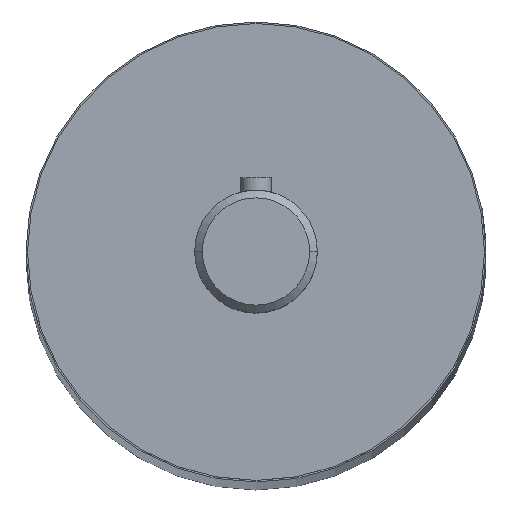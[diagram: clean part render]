
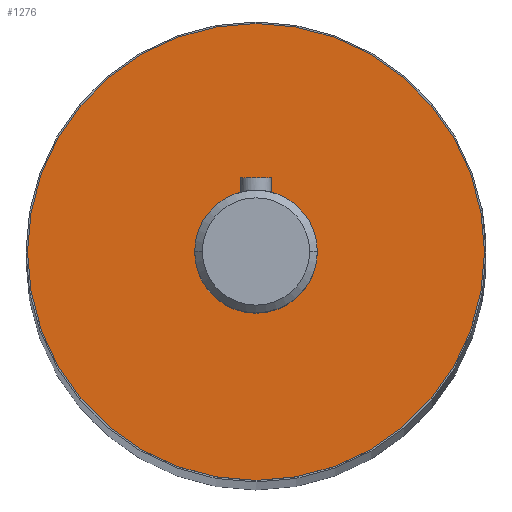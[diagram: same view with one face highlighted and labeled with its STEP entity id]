
A CAD part, top view. The second image highlights one B-rep face of the part: STEP entity #1276.
In plain terms, the highlighted planar face has unit normal (0, 0, 1).
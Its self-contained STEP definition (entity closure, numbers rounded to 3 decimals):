
#73 = CARTESIAN_POINT ( 'NONE',  ( 0., 0., 152.5 ) ) ;
#91 = EDGE_CURVE ( 'NONE', #424, #982, #759, .T. ) ;
#177 = DIRECTION ( 'NONE',  ( 0., 0., 1. ) ) ;
#179 = CIRCLE ( 'NONE', #212, 4. ) ;
#198 = CARTESIAN_POINT ( 'NONE',  ( -4., 0., 152.5 ) ) ;
#200 = VERTEX_POINT ( 'NONE', #643 ) ;
#202 = FACE_OUTER_BOUND ( 'NONE', #470, .T. ) ;
#212 = AXIS2_PLACEMENT_3D ( 'NONE', #1508, #177, #870 ) ;
#256 = DIRECTION ( 'NONE',  ( 1., 0., 0. ) ) ;
#258 = DIRECTION ( 'NONE',  ( 1., 0., 0. ) ) ;
#387 = CARTESIAN_POINT ( 'NONE',  ( 0., 0., 152.5 ) ) ;
#410 = DIRECTION ( 'NONE',  ( 0., 0., 1. ) ) ;
#424 = VERTEX_POINT ( 'NONE', #774 ) ;
#436 = AXIS2_PLACEMENT_3D ( 'NONE', #387, #1310, #479 ) ;
#470 = EDGE_LOOP ( 'NONE', ( #1071, #632 ) ) ;
#479 = DIRECTION ( 'NONE',  ( 1., 0., 0. ) ) ;
#491 = PLANE ( 'NONE',  #436 ) ;
#632 = ORIENTED_EDGE ( 'NONE', *, *, #1577, .T. ) ;
#642 = DIRECTION ( 'NONE',  ( 1., 0., 0. ) ) ;
#643 = CARTESIAN_POINT ( 'NONE',  ( 14.9, 0., 152.5 ) ) ;
#653 = DIRECTION ( 'NONE',  ( 0., 0., 1. ) ) ;
#759 = CIRCLE ( 'NONE', #1442, 4. ) ;
#774 = CARTESIAN_POINT ( 'NONE',  ( 4., 0., 152.5 ) ) ;
#804 = EDGE_CURVE ( 'NONE', #982, #424, #179, .T. ) ;
#835 = CARTESIAN_POINT ( 'NONE',  ( 0., 0., 152.5 ) ) ;
#870 = DIRECTION ( 'NONE',  ( 1., 0., 0. ) ) ;
#874 = EDGE_CURVE ( 'NONE', #1385, #200, #1128, .T. ) ;
#949 = CIRCLE ( 'NONE', #1100, 14.9 ) ;
#982 = VERTEX_POINT ( 'NONE', #198 ) ;
#1071 = ORIENTED_EDGE ( 'NONE', *, *, #874, .T. ) ;
#1078 = EDGE_LOOP ( 'NONE', ( #1659, #1125 ) ) ;
#1100 = AXIS2_PLACEMENT_3D ( 'NONE', #1433, #410, #258 ) ;
#1125 = ORIENTED_EDGE ( 'NONE', *, *, #91, .F. ) ;
#1128 = CIRCLE ( 'NONE', #1573, 14.9 ) ;
#1216 = FACE_BOUND ( 'NONE', #1078, .T. ) ;
#1276 = ADVANCED_FACE ( 'NONE', ( #1216, #202 ), #491, .T. ) ;
#1310 = DIRECTION ( 'NONE',  ( 0., 0., 1. ) ) ;
#1385 = VERTEX_POINT ( 'NONE', #1546 ) ;
#1433 = CARTESIAN_POINT ( 'NONE',  ( 0., 0., 152.5 ) ) ;
#1442 = AXIS2_PLACEMENT_3D ( 'NONE', #835, #1586, #256 ) ;
#1508 = CARTESIAN_POINT ( 'NONE',  ( 0., 0., 152.5 ) ) ;
#1546 = CARTESIAN_POINT ( 'NONE',  ( -14.9, 0., 152.5 ) ) ;
#1573 = AXIS2_PLACEMENT_3D ( 'NONE', #73, #653, #642 ) ;
#1577 = EDGE_CURVE ( 'NONE', #200, #1385, #949, .T. ) ;
#1586 = DIRECTION ( 'NONE',  ( 0., 0., 1. ) ) ;
#1659 = ORIENTED_EDGE ( 'NONE', *, *, #804, .F. ) ;
